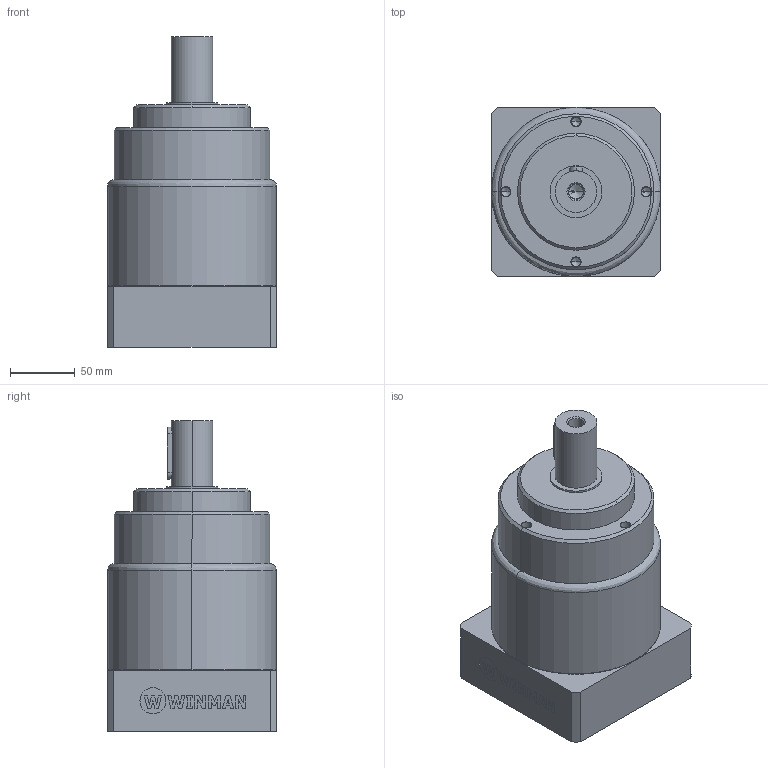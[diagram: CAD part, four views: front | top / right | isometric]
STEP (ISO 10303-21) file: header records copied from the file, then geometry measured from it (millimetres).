
FILE_DESCRIPTION (( 'STEP AP214' ), '1' );
FILE_NAME ('WIE-120-L2 (3DMY).STEP', '2016-10-14T15:05:41', ( 'Hidtek' ), ( '' ), 'SwSTEP 2.0', 'SolidWorks 2016', '' );
FILE_SCHEMA (( 'AUTOMOTIVE_DESIGN' ));
Length unit declared in the file: millimetre
Products named in the file (1): WIE-120-L2 (3DMY)
Bounding box: 130 x 130 x 239 mm (x, y, z)
Volume: 2374918.2 mm3; surface area: 126767.1 mm2
Topology: 1 solids, 1 shells, 295 faces, 749 edges, 481 vertices
Faces by surface type: plane 206, cylinder 61, cone 24, bspline 4
Entity records: 12039 total; most frequent: CARTESIAN_POINT 1643, ORIENTED_EDGE 1462, DIRECTION 1441, EDGE_CURVE 731, LINE 595, VECTOR 595, VERTEX_POINT 481, AXIS2_PLACEMENT_3D 423
